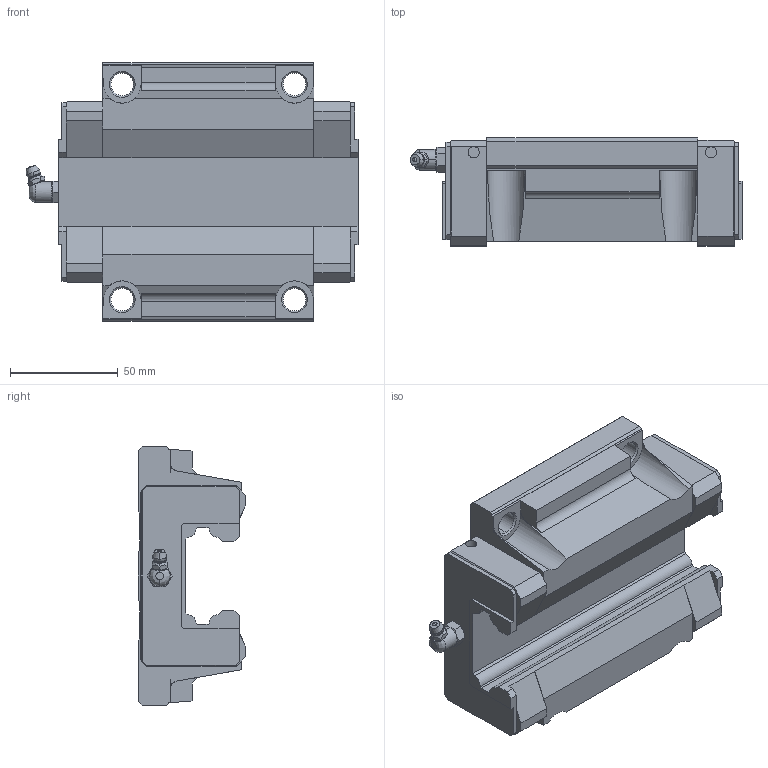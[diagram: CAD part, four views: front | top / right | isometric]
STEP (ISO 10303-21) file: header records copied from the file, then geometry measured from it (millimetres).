
FILE_DESCRIPTION (( 'STEP AP203' ), '1' );
FILE_NAME ('HSR45C_SW2020.STEP', '2020-06-02T18:12:40', ( '' ), ( '' ), 'SwSTEP 2.0', 'SolidWorks 2020', '' );
FILE_SCHEMA (( 'CONFIG_CONTROL_DESIGN' ));
Length unit declared in the file: millimetre
Products named in the file (1): HSR45C_SW2020
Bounding box: 154.2 x 50 x 120 mm (x, y, z)
Volume: 482722.9 mm3; surface area: 61961.8 mm2
Topology: 2 solids, 2 shells, 253 faces, 684 edges, 434 vertices
Faces by surface type: plane 163, cone 40, cylinder 38, torus 6, sphere 4, bspline 2
Entity records: 8690 total; most frequent: CARTESIAN_POINT 2279, ORIENTED_EDGE 1356, DIRECTION 1280, EDGE_CURVE 678, VECTOR 476, LINE 476, VERTEX_POINT 434, AXIS2_PLACEMENT_3D 402
